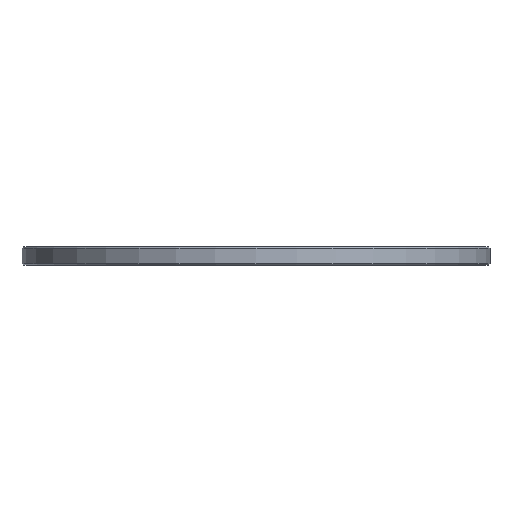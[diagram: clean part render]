
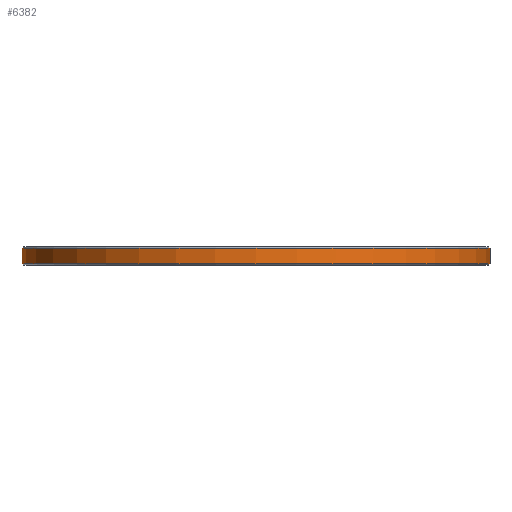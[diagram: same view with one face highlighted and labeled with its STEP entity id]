
A CAD part, front view. The second image highlights one B-rep face of the part: STEP entity #6382.
In plain terms, the highlighted cylindrical face has radius 39.062 mm (diameter 78.125 mm), a full revolution.
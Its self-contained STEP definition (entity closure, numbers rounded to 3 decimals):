
#71=CYLINDRICAL_SURFACE('',#6788,39.063);
#657=FACE_OUTER_BOUND('',#1028,.T.);
#1028=EDGE_LOOP('',(#5915,#5916,#5917,#5918));
#1118=CIRCLE('',#6787,39.063);
#1119=CIRCLE('',#6789,39.063);
#1923=LINE('',#10182,#2738);
#2738=VECTOR('',#8350,39.063);
#3324=VERTEX_POINT('',#10176);
#3325=VERTEX_POINT('',#10180);
#4190=EDGE_CURVE('',#3324,#3324,#1118,.T.);
#4192=EDGE_CURVE('',#3325,#3325,#1119,.T.);
#4193=EDGE_CURVE('',#3325,#3324,#1923,.T.);
#5915=ORIENTED_EDGE('',*,*,#4192,.F.);
#5916=ORIENTED_EDGE('',*,*,#4193,.T.);
#5917=ORIENTED_EDGE('',*,*,#4190,.F.);
#5918=ORIENTED_EDGE('',*,*,#4193,.F.);
#6382=ADVANCED_FACE('',(#657),#71,.T.);
#6787=AXIS2_PLACEMENT_3D('',#10177,#8343,#8344);
#6788=AXIS2_PLACEMENT_3D('',#10179,#8346,#8347);
#6789=AXIS2_PLACEMENT_3D('',#10181,#8348,#8349);
#8343=DIRECTION('center_axis',(0.,0.,-1.));
#8344=DIRECTION('ref_axis',(1.,0.,0.));
#8346=DIRECTION('center_axis',(0.,0.,1.));
#8347=DIRECTION('ref_axis',(1.,0.,0.));
#8348=DIRECTION('center_axis',(0.,0.,1.));
#8349=DIRECTION('ref_axis',(1.,0.,0.));
#8350=DIRECTION('',(0.,0.,-1.));
#10176=CARTESIAN_POINT('',(-39.063,0.,0.3));
#10177=CARTESIAN_POINT('Origin',(0.,0.,0.3));
#10179=CARTESIAN_POINT('Origin',(0.,0.,0.));
#10180=CARTESIAN_POINT('',(-39.063,0.,2.825));
#10181=CARTESIAN_POINT('Origin',(0.,0.,2.825));
#10182=CARTESIAN_POINT('',(-39.063,0.,0.));
